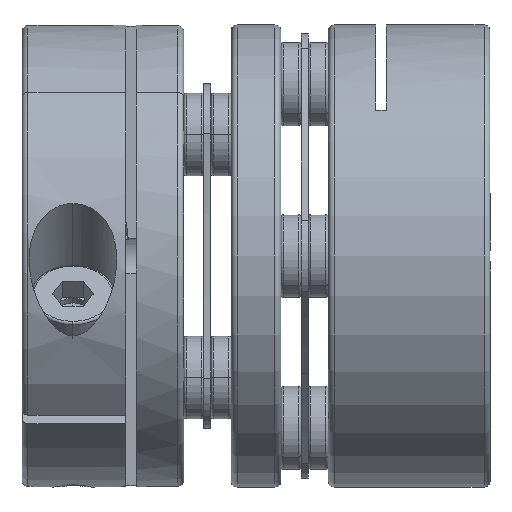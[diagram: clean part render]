
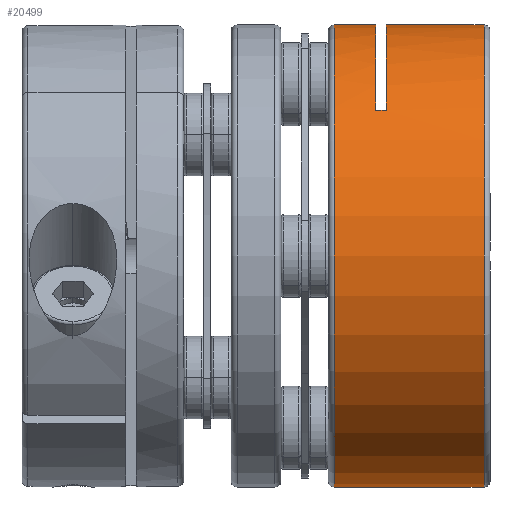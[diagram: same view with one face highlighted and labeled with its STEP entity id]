
A CAD part, left-side view. The second image highlights one B-rep face of the part: STEP entity #20499.
In plain terms, the highlighted cylindrical face has radius 19.5 mm (diameter 39 mm), a partial arc.
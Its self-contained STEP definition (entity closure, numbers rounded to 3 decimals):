
#2405 = FACE_OUTER_BOUND ( 'NONE', #20103, .T. ) ;
#2410 = CYLINDRICAL_SURFACE ( 'NONE', #21793, 19.5 ) ;
#3540 = ORIENTED_EDGE ( 'NONE', *, *, #10449, .T. ) ;
#3541 = ORIENTED_EDGE ( 'NONE', *, *, #10961, .T. ) ;
#3542 = ORIENTED_EDGE ( 'NONE', *, *, #10962, .F. ) ;
#3543 = ORIENTED_EDGE ( 'NONE', *, *, #10446, .F. ) ;
#7410 = CARTESIAN_POINT ( 'NONE',  ( 0., -4., 0. ) ) ;
#7418 = DIRECTION ( 'NONE',  ( 0., 0., -1. ) ) ;
#7419 = DIRECTION ( 'NONE',  ( 0., -1., 0. ) ) ;
#9351 = CARTESIAN_POINT ( 'NONE',  ( -15.13, -8., 12.302 ) ) ;
#10446 = EDGE_CURVE ( 'NONE', #19582, #18927, #13819, .T. ) ;
#10449 = EDGE_CURVE ( 'NONE', #19098, #19567, #13839, .T. ) ;
#10456 = EDGE_CURVE ( 'NONE', #19662, #18972, #13862, .T. ) ;
#10502 = EDGE_CURVE ( 'NONE', #19567, #18927, #13981, .T. ) ;
#10678 = EDGE_CURVE ( 'NONE', #19725, #18733, #14349, .T. ) ;
#10961 = EDGE_CURVE ( 'NONE', #19662, #19098, #14961, .T. ) ;
#10962 = EDGE_CURVE ( 'NONE', #19725, #19582, #14964, .T. ) ;
#10963 = EDGE_CURVE ( 'NONE', #18972, #18733, #14950, .T. ) ;
#11372 = DIRECTION ( 'NONE',  ( 0., 0., -1. ) ) ;
#11383 = DIRECTION ( 'NONE',  ( 0., 1., 0. ) ) ;
#11674 = CARTESIAN_POINT ( 'NONE',  ( 0., -17.15, 0. ) ) ;
#11676 = DIRECTION ( 'NONE',  ( 0., -1., 0. ) ) ;
#11679 = CARTESIAN_POINT ( 'NONE',  ( 0., -4., 19.5 ) ) ;
#11689 = DIRECTION ( 'NONE',  ( 0., -1., 0. ) ) ;
#11738 = DIRECTION ( 'NONE',  ( 0., -1., 0. ) ) ;
#11739 = CARTESIAN_POINT ( 'NONE',  ( 0., -4., 19.5 ) ) ;
#11740 = CARTESIAN_POINT ( 'NONE',  ( 0., -4., -19.5 ) ) ;
#12020 = AXIS2_PLACEMENT_3D ( 'NONE', #11674, #11383, #11372 ) ;
#12262 = AXIS2_PLACEMENT_3D ( 'NONE', #22328, #22325, #22323 ) ;
#12263 = AXIS2_PLACEMENT_3D ( 'NONE', #22320, #22318, #22315 ) ;
#12264 = AXIS2_PLACEMENT_3D ( 'NONE', #22308, #22305, #22304 ) ;
#13232 = CARTESIAN_POINT ( 'NONE',  ( -15.13, -4., 12.302 ) ) ;
#13819 = LINE ( 'NONE', #11739, #13837 ) ;
#13837 = VECTOR ( 'NONE', #11738, 1000. ) ;
#13839 = LINE ( 'NONE', #11740, #13841 ) ;
#13841 = VECTOR ( 'NONE', #11689, 1000. ) ;
#13842 = DIRECTION ( 'NONE',  ( 0., 1., 0. ) ) ;
#13862 = LINE ( 'NONE', #11679, #13866 ) ;
#13866 = VECTOR ( 'NONE', #11676, 1000. ) ;
#13913 = ORIENTED_EDGE ( 'NONE', *, *, #10456, .F. ) ;
#13916 = ORIENTED_EDGE ( 'NONE', *, *, #10502, .T. ) ;
#13928 = ORIENTED_EDGE ( 'NONE', *, *, #10678, .T. ) ;
#13931 = ORIENTED_EDGE ( 'NONE', *, *, #10963, .F. ) ;
#13981 = CIRCLE ( 'NONE', #12020, 19.5 ) ;
#14349 = LINE ( 'NONE', #13232, #14355 ) ;
#14355 = VECTOR ( 'NONE', #13842, 1000. ) ;
#14950 = CIRCLE ( 'NONE', #12264, 19.5 ) ;
#14961 = CIRCLE ( 'NONE', #12262, 19.5 ) ;
#14964 = CIRCLE ( 'NONE', #12263, 19.5 ) ;
#18733 = VERTEX_POINT ( 'NONE', #9351 ) ;
#18927 = VERTEX_POINT ( 'NONE', #21658 ) ;
#18972 = VERTEX_POINT ( 'NONE', #21442 ) ;
#19098 = VERTEX_POINT ( 'NONE', #21201 ) ;
#19567 = VERTEX_POINT ( 'NONE', #21323 ) ;
#19582 = VERTEX_POINT ( 'NONE', #21309 ) ;
#19662 = VERTEX_POINT ( 'NONE', #21226 ) ;
#19725 = VERTEX_POINT ( 'NONE', #21166 ) ;
#20103 = EDGE_LOOP ( 'NONE', ( #13913, #3541, #3540, #13916, #3543, #3542, #13928, #13931 ) ) ;
#20499 = ADVANCED_FACE ( 'NONE', ( #2405 ), #2410, .T. ) ;
#21166 = CARTESIAN_POINT ( 'NONE',  ( -15.13, -8.9, 12.302 ) ) ;
#21201 = CARTESIAN_POINT ( 'NONE',  ( 0., -4.5, -19.5 ) ) ;
#21226 = CARTESIAN_POINT ( 'NONE',  ( 0., -4.5, 19.5 ) ) ;
#21309 = CARTESIAN_POINT ( 'NONE',  ( 0., -8.9, 19.5 ) ) ;
#21323 = CARTESIAN_POINT ( 'NONE',  ( 0., -17.15, -19.5 ) ) ;
#21442 = CARTESIAN_POINT ( 'NONE',  ( 0., -8., 19.5 ) ) ;
#21658 = CARTESIAN_POINT ( 'NONE',  ( 0., -17.15, 19.5 ) ) ;
#21793 = AXIS2_PLACEMENT_3D ( 'NONE', #7410, #7419, #7418 ) ;
#22304 = DIRECTION ( 'NONE',  ( 1., 0., 0. ) ) ;
#22305 = DIRECTION ( 'NONE',  ( 0., -1., 0. ) ) ;
#22308 = CARTESIAN_POINT ( 'NONE',  ( 0., -8., 0. ) ) ;
#22315 = DIRECTION ( 'NONE',  ( -1., 0., 0. ) ) ;
#22318 = DIRECTION ( 'NONE',  ( 0., 1., 0. ) ) ;
#22320 = CARTESIAN_POINT ( 'NONE',  ( 0., -8.9, 0. ) ) ;
#22323 = DIRECTION ( 'NONE',  ( 0., 0., -1. ) ) ;
#22325 = DIRECTION ( 'NONE',  ( 0., -1., 0. ) ) ;
#22328 = CARTESIAN_POINT ( 'NONE',  ( 0., -4.5, 0. ) ) ;
